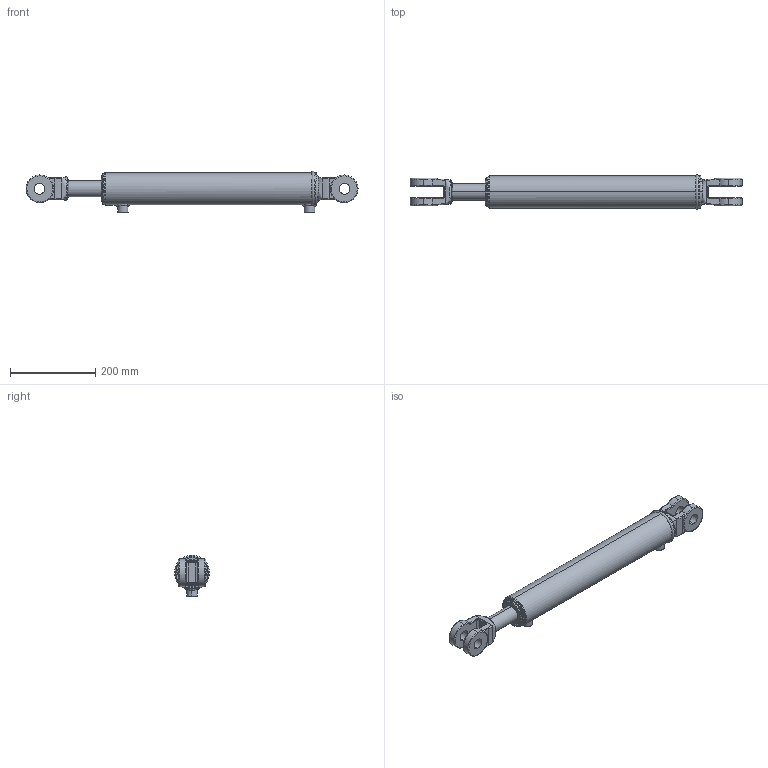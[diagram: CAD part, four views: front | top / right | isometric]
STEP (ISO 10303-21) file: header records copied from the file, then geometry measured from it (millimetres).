
FILE_DESCRIPTION (( 'STEP AP203' ), '1' );
FILE_NAME ('CL-CL250150x406 (16).STEP', '2014-11-21T02:22:10', ( '' ), ( '' ), 'SwSTEP 2.0', 'SolidWorks 2014', '' );
FILE_SCHEMA (( 'CONFIG_CONTROL_DESIGN' ));
Length unit declared in the file: millimetre
Products named in the file (5): CL-CL250150x406 (16) body; 2.5 inch ext circlip; CL-CL250150x406 (16) BODY; SPARE 6_16-xx; CL-CL250150x406 (16)
Assembly tree (4 placements, depth 3):
  CL-CL250150x406 (16)
    CL-CL250150x406 (16) BODY
      CL-CL250150x406 (16) body
      2.5 inch ext circlip
    SPARE 6_16-xx
Bounding box: 780.39 x 82.17 x 97.2 mm (x, y, z)
Volume: 3099522.4 mm3; surface area: 276626.6 mm2
Topology: 3 solids, 3 shells, 210 faces, 512 edges, 315 vertices
Faces by surface type: cylinder 91, bspline 59, plane 37, torus 15, cone 8
Entity records: 11387 total; most frequent: CARTESIAN_POINT 6222, ORIENTED_EDGE 1016, DIRECTION 943, EDGE_CURVE 508, AXIS2_PLACEMENT_3D 394, VERTEX_POINT 315, CIRCLE 235, EDGE_LOOP 233
